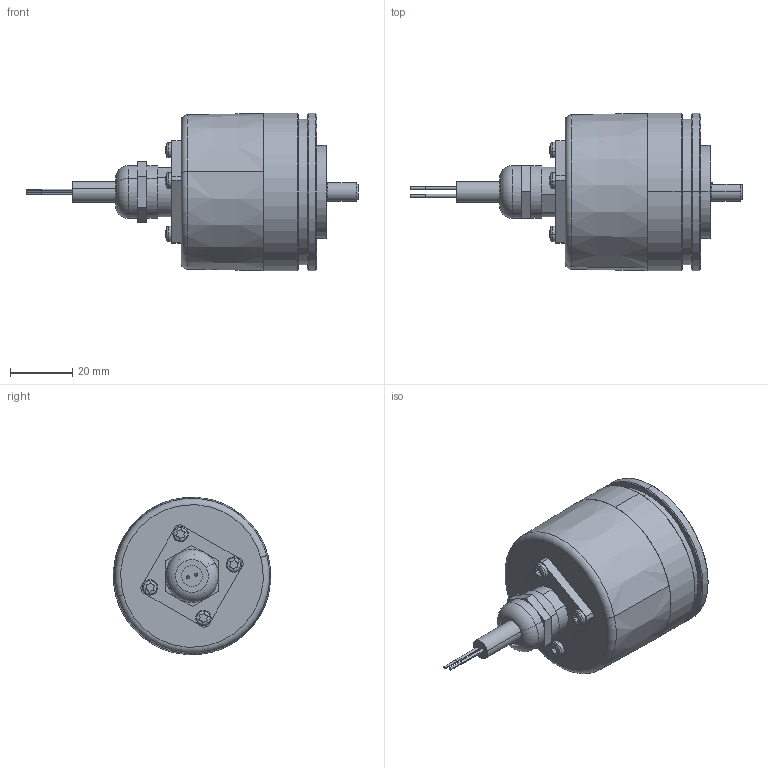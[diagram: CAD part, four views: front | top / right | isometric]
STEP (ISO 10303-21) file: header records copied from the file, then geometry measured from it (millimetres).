
FILE_DESCRIPTION (( 'STEP AP214' ), '1' );
FILE_NAME ('5000.61X1.XXXX.STEP', '2008-11-28T10:19:21', ( 'admin' ), ( 'Fritz Kübler GmbH' ), 'SwSTEP 2.0', 'SolidWorks 2008', '' );
FILE_SCHEMA (( 'AUTOMOTIVE_DESIGN' ));
Length unit declared in the file: millimetre
Products named in the file (1): 5000.61X1.XXXX
Bounding box: 107 x 50.8 x 50.8 mm (x, y, z)
Volume: 53174.1 mm3; surface area: 35378.7 mm2
Topology: 12 solids, 13 shells, 549 faces, 1274 edges, 766 vertices
Faces by surface type: plane 170, cylinder 154, cone 103, torus 75, sphere 35, bspline 12
Entity records: 22496 total; most frequent: CARTESIAN_POINT 3816, DIRECTION 2878, ORIENTED_EDGE 2416, EDGE_CURVE 1208, AXIS2_PLACEMENT_3D 1208, VERTEX_POINT 736, CIRCLE 670, EDGE_LOOP 642
